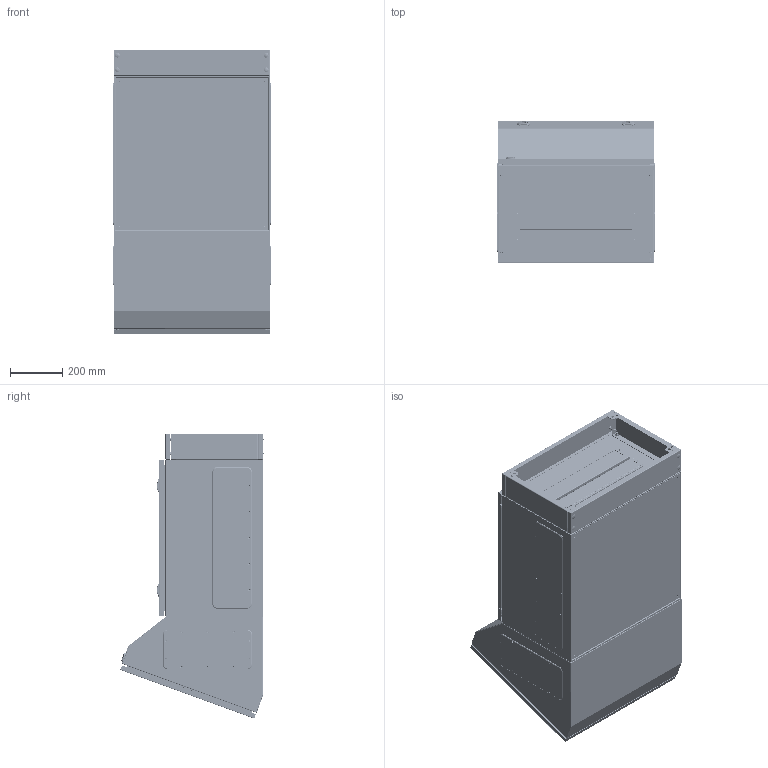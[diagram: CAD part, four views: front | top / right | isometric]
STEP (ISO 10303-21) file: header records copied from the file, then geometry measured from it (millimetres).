
FILE_DESCRIPTION (( 'STEP AP203' ), '1' );
FILE_NAME ('R5RCPC600+R5RBPC600+R5N3BP64+R5FZ6+R5BZ4_Assem.STEP', '2024-12-02T19:22:50', ( '' ), ( '' ), 'SwSTEP 2.0', 'SolidWorks 2022', '' );
FILE_SCHEMA (( 'CONFIG_CONTROL_DESIGN' ));
Length unit declared in the file: millimetre
Products named in the file (89): TPA.08.0001.00.00.0; M3x10 DIN 912 HX cl.4,8 Zinc_straight; R5FZ_R5FZ6-400; R5BZ_R5BZ4-600; RB.3108.03.01.0; RB.0048.11.00.0 CБ_-02; RB.0048.08.00.0 СБ_-04; Gas elevator M102_4; RB.3108.05.03.0; M8 DIN 6923 cl.8,0 Zinc_straight; Plug_11.5-13Д18ЧК_-00; R5N3BP64_R5N3BP0604; 6 DIN 6798 A Zinc; M5x12 DIN 7500 C Torx Zinc_thread; RB.3104.02.01.0; Заклёпка резьбовая MGS-MPO-0635_-00; AC00C380-R; M6x16 DIN 7985 PZ cl.4,8 Zinc_straight; RB.1053.00.01.0_-03; RB.3108.02.02.0; RB.3108.01.00.0 СБ; M3 DIN 985 cl.5,0 Zinc_straight; TPA.08.0077.00.00.0; Pin 1.0х12 DIN 6325; Заклёпка резьбовая MGS-MPO-0835_-00; RB.3104.00.00.0 СБ; TPA.08.0003.00.00.0; M4x10 DIN 7985 PH cl.4,8 Zinc_thread; RB.0048.11.00.0 CБ_-04; RB.2010.00.00.0_-04; RB.3108.03.00.0 СБ; RB.2238.00.00.0; RB.3104.01.00.0 СБ; PF 7,5x15 door ST_0600x0600; PF 4x8 flange ST_04; 8 DIN 6798 A Zinc; R5RCPC600+R5RBPC600+R5N3BP64+R5FZ6+R5BZ4_Assem; AC00C356-R_AC00c356(A7100031); RB.3108.02.01.0_-01; Gas elevator M102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
Assembly tree (281 placements, depth 5):
  R5RCPC600+R5RBPC600+R5N3BP64+R5FZ6+R5BZ4_Assem
    RB.3104.00.00.0 СБ
      RB.3104.01.00.0 СБ
        RB.3104.02.00.0 СБ
          RB.3104.02.02.0
          RB.3104.02.01.0  x2
          PT М8х25 cl.4.8 Cu ISO13918_straight  x4
          PT М6х16 Cu ISO13918_straight  x4
        RB.2171.00.00.0 СБ  x2
          RB.2171.00.01.0
          Pin 1.0х12 DIN 6325
        4 DIN 125 A Plastic  x2
        M4x6 DIN 7985 PH cl.4,8 Zinc_straight  x2
        TPA.08.0077.00.00.0  x2
      RB.0048.08.00.0 СБ_-04
        RB.0048.07.00.0 СБ_-04
          RB.0048.07.01.0_-04
          RB.2237.00.00.0  x2
          RB.2010.00.00.0_-04  x2
          М6х12 A5100231_straight  x2
        PF 7,5x15 door ST_0600x0600
        TPA.08.0060.00.00.0 СБ  x2
          A7100032-R
          AC00C343-Trizam
          AC00C348-R
          TPA.08.0001.00.00.0
          TPA.08.0002.00.00.0
          TPA.08.0003.00.00.0
          M6x16 DIN 7985 PZ cl.4,8 Zinc_straight
        AC00C356-R_AC00c356(A7100031)  x2
      RB.2070.00.00.0  x4
      RB.0048.00.02.1_-06
      M8 DIN 6923 cl.8,0 Zinc_straight  x4
      RB.2238.00.00.0  x2
      AC00C380-R  x2
      RB.0048.11.00.0 CБ_-04  x2
        RB.0048.11.01.0_-04
        PF 4x8 flange ST_04
      M4x10 DIN 7500 M PZ cl.4,8 Zinc_straight  x4
    Уплотнитель неопрен 3x8_PD.24.07.05_600
    RB.3108.00.00.0 СБ
      RB.3108.01.00.0 СБ
        RB.3108.02.00.0 СБ
          RB.3108.02.02.0
          RB.3108.02.01.0
          RB.3108.02.01.0_-01
          RB.3108.02.03.0
          PT М6х16 Cu ISO13918_straight  x4
          PT М8х25 cl.4.8 Cu ISO13918_straight  x4
        RB.2171.00.00.0 СБ  x2
          RB.2171.00.01.0
          Pin 1.0х12 DIN 6325
        4 DIN 125 A Plastic  x2
        M4x6 DIN 7985 PH cl.4,8 Zinc_straight  x2
        RB.3108.03.00.0 СБ  x2
          A7100032-R
          AC00C343-Trizam
          AC00C348-R
          TPA.08.0001.00.00.0
          TPA.08.0002.00.00.0
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Bounding box: 607 x 549.18 x 1093.86 mm (x, y, z)
Volume: 6635264.9 mm3; surface area: 8153309.4 mm2
Topology: 301 solids, 301 shells, 15810 faces, 39377 edges, 23843 vertices
Faces by surface type: plane 7326, cylinder 3926, cone 1698, bspline 1602, torus 868, sphere 390
Full cylindrical faces by diameter (mm): 0.8 x8, 1 x8, 2.4 x2, 2.5 x10, 3 x12, 3.2 x86, 3.3 x4, 3.5 x4, 3.714 x2, 3.8 x4, 4 x236, 4.3 x8, 4.4 x4, 4.5 x4, 4.857 x8, 5 x160, 5.1 x8, 5.3 x2, 5.5 x10, 5.6 x2, 6 x24, 6.4 x8, 6.7 x2, 6.8 x38, 7 x16, 7.5 x20, 8 x90, 8.4 x60, 8.9 x8, 9 x18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
Entity records: 213650 total; most frequent: CARTESIAN_POINT 71624, ORIENTED_EDGE 26140, DIRECTION 25355, EDGE_CURVE 13070, AXIS2_PLACEMENT_3D 8557, VERTEX_POINT 8470, VECTOR 8241, LINE 8241
